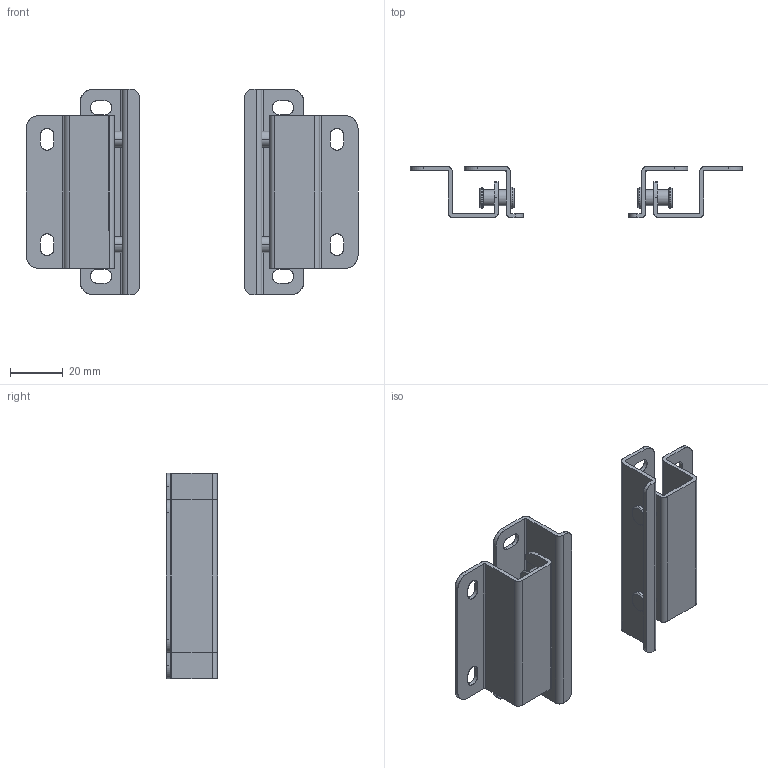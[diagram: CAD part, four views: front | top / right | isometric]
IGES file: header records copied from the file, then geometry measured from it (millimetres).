
Start section: SolidWorks IGES file using analytic representation for surfaces
Bounding box: 126 x 19.5 x 78 mm (x, y, z)
Surface area: 28104.1 mm2 (no closed solid volume)
Topology: 0 solids, 0 shells, 212 faces, 3040 edges, 3040 vertices
Faces by surface type: revolution 128, bspline 84
